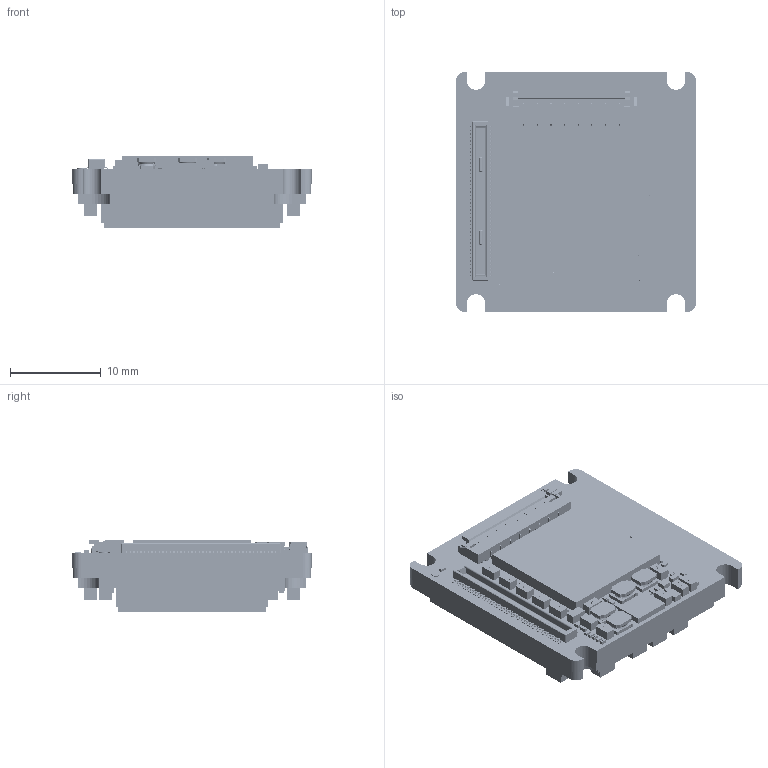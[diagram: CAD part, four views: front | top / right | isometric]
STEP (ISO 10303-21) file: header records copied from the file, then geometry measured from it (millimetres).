
FILE_DESCRIPTION (( 'STEP AP214' ), '1' );
FILE_NAME ('Alvium-CSI2-Bare-Board-IMX421-422-426.STEP', '2022-11-18T14:53:02', ( '' ), ( '' ), 'SwSTEP 2.0', 'SolidWorks 2021', '' );
FILE_SCHEMA (( 'AUTOMOTIVE_DESIGN' ));
Length unit declared in the file: millimetre
Products named in the file (1): Alvium-CSI2-Bare-Board-IMX421-422-426
Bounding box: 26.4 x 26.4 x 7.9 mm (x, y, z)
Volume: 3718.4 mm3; surface area: 4902.2 mm2
Topology: 161 solids, 161 shells, 10542 faces, 26834 edges, 17650 vertices
Faces by surface type: plane 5273, bspline 4179, cylinder 1058, torus 28, cone 4
Entity records: 672048 total; most frequent: CARTESIAN_POINT 326818, ORIENTED_EDGE 53636, DIRECTION 33304, EDGE_CURVE 26818, VERTEX_POINT 17650, LINE 16272, VECTOR 16272, EDGE_LOOP 11612
